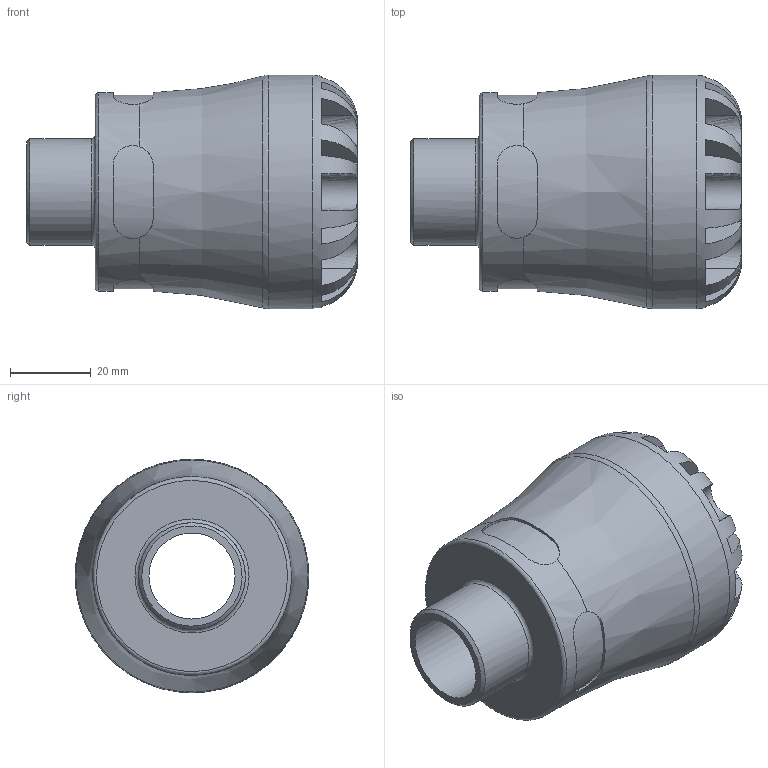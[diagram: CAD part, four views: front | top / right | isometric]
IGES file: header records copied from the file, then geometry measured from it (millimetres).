
Global section: file name: 1002Z0010007; native system: Autodesk Inventor 2019; preprocessor: unknown; author: KIM; date: 20210902.143655; units: inch
Bounding box: 82.04 x 57.91 x 57.91 mm (x, y, z)
Volume: 101709 mm3; surface area: 24324.7 mm2
Topology: 1 solids, 1 shells, 100 faces, 273 edges, 177 vertices
Faces by surface type: bspline 100
